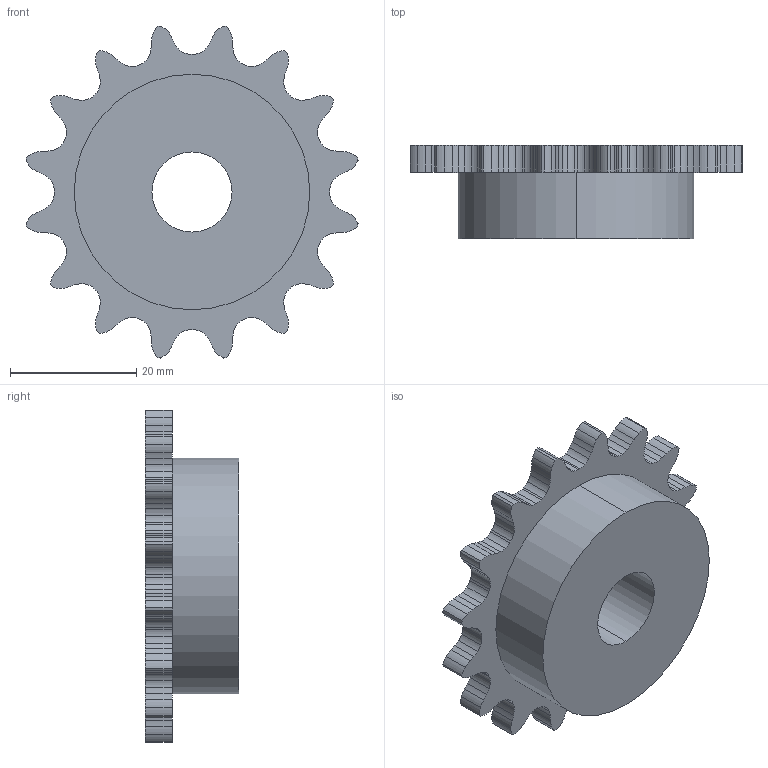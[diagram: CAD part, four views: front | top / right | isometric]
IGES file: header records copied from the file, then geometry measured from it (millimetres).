
Global section: file name: C:\Documents and Settings\Administrator\Desktop\Transfer Temp\rcss-3816.igs; native system: AutoDesk Inventor R2.0 ; preprocessor: AutoDesk Inventor Iges Exporter R2.0; author: No Author specified; organization: No Organization specified; date: 20011229.123617; units: inch
Bounding box: 52.65 x 14.78 x 52.65 mm (x, y, z)
Surface area: 6129.7 mm2 (no closed solid volume)
Topology: 0 solids, 0 shells, 231 faces, 1368 edges, 1368 vertices
Faces by surface type: revolution 196, bspline 35
